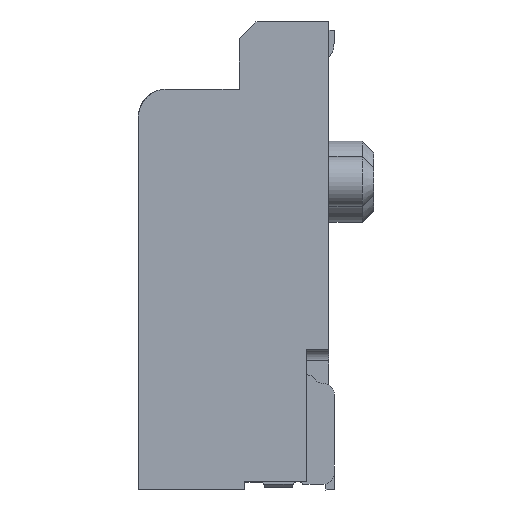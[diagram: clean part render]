
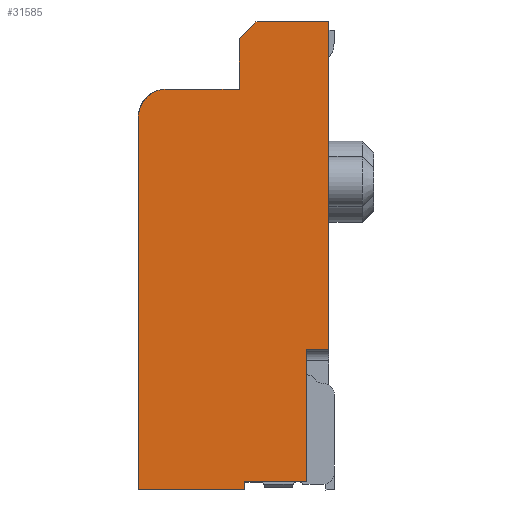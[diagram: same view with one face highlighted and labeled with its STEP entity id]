
A CAD part, left-side view. The second image highlights one B-rep face of the part: STEP entity #31585.
In plain terms, the highlighted planar face has unit normal (-1, 0, 0).
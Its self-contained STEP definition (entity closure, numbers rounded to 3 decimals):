
#1019 = CARTESIAN_POINT ( 'NONE',  ( -37.637, -7.383, 3.876 ) ) ;
#2983 = PLANE ( 'NONE',  #64553 ) ;
#3279 = CARTESIAN_POINT ( 'NONE',  ( -37.637, -7.683, 4.176 ) ) ;
#4075 = VERTEX_POINT ( 'NONE', #12726 ) ;
#4671 = VERTEX_POINT ( 'NONE', #31272 ) ;
#4919 = VECTOR ( 'NONE', #35496, 1000. ) ;
#6683 = EDGE_CURVE ( 'NONE', #62897, #73253, #21357, .T. ) ;
#7192 = CARTESIAN_POINT ( 'NONE',  ( -37.637, -5.583, 2.476 ) ) ;
#7528 = EDGE_CURVE ( 'NONE', #18116, #24032, #82678, .T. ) ;
#11806 = CARTESIAN_POINT ( 'NONE',  ( -37.637, -7.383, 3.876 ) ) ;
#12726 = CARTESIAN_POINT ( 'NONE',  ( -37.637, -8.583, -1.674 ) ) ;
#13020 = VECTOR ( 'NONE', #24355, 1000. ) ;
#13164 = CARTESIAN_POINT ( 'NONE',  ( -37.637, -8.983, -1.674 ) ) ;
#14035 = DIRECTION ( 'NONE',  ( 0., 0., -1. ) ) ;
#16226 = FACE_OUTER_BOUND ( 'NONE', #77012, .T. ) ;
#16313 = CARTESIAN_POINT ( 'NONE',  ( -37.637, -4.783, -1.674 ) ) ;
#17011 = EDGE_CURVE ( 'NONE', #32920, #24032, #86379, .T. ) ;
#18116 = VERTEX_POINT ( 'NONE', #54399 ) ;
#19761 = CARTESIAN_POINT ( 'NONE',  ( -37.637, -5.583, -4.174 ) ) ;
#20995 = VECTOR ( 'NONE', #26807, 1000. ) ;
#21357 = LINE ( 'NONE', #28641, #4919 ) ;
#21363 = CARTESIAN_POINT ( 'NONE',  ( -37.637, -7.483, -4.024 ) ) ;
#22059 = EDGE_CURVE ( 'NONE', #46429, #4075, #45837, .T. ) ;
#22461 = VECTOR ( 'NONE', #86073, 1000. ) ;
#23965 = DIRECTION ( 'NONE',  ( -1., 0., 0. ) ) ;
#24032 = VERTEX_POINT ( 'NONE', #47310 ) ;
#24355 = DIRECTION ( 'NONE',  ( 0., 0., -1. ) ) ;
#26028 = LINE ( 'NONE', #74393, #26268 ) ;
#26268 = VECTOR ( 'NONE', #89394, 1000. ) ;
#26807 = DIRECTION ( 'NONE',  ( 0., -1., 0. ) ) ;
#26899 = AXIS2_PLACEMENT_3D ( 'NONE', #76791, #34843, #62678 ) ;
#27093 = EDGE_CURVE ( 'NONE', #80863, #4671, #66240, .T. ) ;
#28204 = ORIENTED_EDGE ( 'NONE', *, *, #7528, .T. ) ;
#28578 = VERTEX_POINT ( 'NONE', #52452 ) ;
#28605 = DIRECTION ( 'NONE',  ( 0., 0., -1. ) ) ;
#28641 = CARTESIAN_POINT ( 'NONE',  ( -37.637, -7.683, 4.176 ) ) ;
#28720 = VERTEX_POINT ( 'NONE', #74321 ) ;
#29918 = LINE ( 'NONE', #38546, #35069 ) ;
#30975 = VECTOR ( 'NONE', #14035, 1000. ) ;
#31272 = CARTESIAN_POINT ( 'NONE',  ( -37.637, -5.583, 2.476 ) ) ;
#31432 = CARTESIAN_POINT ( 'NONE',  ( -37.637, 15.501, 4.176 ) ) ;
#31585 = ADVANCED_FACE ( 'NONE', ( #16226 ), #2983, .T. ) ;
#31789 = VECTOR ( 'NONE', #28605, 1000. ) ;
#32920 = VERTEX_POINT ( 'NONE', #21363 ) ;
#33650 = VECTOR ( 'NONE', #82243, 1000. ) ;
#34843 = DIRECTION ( 'NONE',  ( -1., 0., 0. ) ) ;
#35069 = VECTOR ( 'NONE', #79594, 1000. ) ;
#35496 = DIRECTION ( 'NONE',  ( 0., 0.707, -0.707 ) ) ;
#35551 = VERTEX_POINT ( 'NONE', #13164 ) ;
#37206 = DIRECTION ( 'NONE',  ( 0., 0., 1. ) ) ;
#37593 = CARTESIAN_POINT ( 'NONE',  ( -37.637, -7.483, -1.674 ) ) ;
#38150 = ORIENTED_EDGE ( 'NONE', *, *, #75522, .T. ) ;
#38269 = LINE ( 'NONE', #31432, #20995 ) ;
#38546 = CARTESIAN_POINT ( 'NONE',  ( -37.637, -8.583, -4.024 ) ) ;
#38671 = CARTESIAN_POINT ( 'NONE',  ( -37.637, -8.583, -4.024 ) ) ;
#40207 = ORIENTED_EDGE ( 'NONE', *, *, #22059, .T. ) ;
#40530 = VECTOR ( 'NONE', #67257, 1000. ) ;
#41764 = EDGE_CURVE ( 'NONE', #62897, #28578, #38269, .T. ) ;
#43729 = ORIENTED_EDGE ( 'NONE', *, *, #41764, .F. ) ;
#45837 = LINE ( 'NONE', #47171, #40530 ) ;
#46429 = VERTEX_POINT ( 'NONE', #38671 ) ;
#46452 = LINE ( 'NONE', #11806, #30975 ) ;
#47171 = CARTESIAN_POINT ( 'NONE',  ( -37.637, -8.583, -4.024 ) ) ;
#47310 = CARTESIAN_POINT ( 'NONE',  ( -37.637, -7.483, -4.174 ) ) ;
#47509 = DIRECTION ( 'NONE',  ( 0., 0., 1. ) ) ;
#47733 = EDGE_CURVE ( 'NONE', #46429, #32920, #29918, .T. ) ;
#47956 = LINE ( 'NONE', #68488, #71892 ) ;
#50189 = ORIENTED_EDGE ( 'NONE', *, *, #70679, .T. ) ;
#50885 = CARTESIAN_POINT ( 'NONE',  ( -37.637, -6.083, 2.976 ) ) ;
#51664 = ORIENTED_EDGE ( 'NONE', *, *, #6683, .T. ) ;
#52452 = CARTESIAN_POINT ( 'NONE',  ( -37.637, -8.983, 4.176 ) ) ;
#54399 = CARTESIAN_POINT ( 'NONE',  ( -37.637, -5.583, -4.174 ) ) ;
#54535 = EDGE_CURVE ( 'NONE', #35551, #28578, #47956, .T. ) ;
#55536 = LINE ( 'NONE', #7192, #31789 ) ;
#57737 = CARTESIAN_POINT ( 'NONE',  ( -37.637, -4.783, 2.976 ) ) ;
#59069 = ORIENTED_EDGE ( 'NONE', *, *, #47733, .F. ) ;
#62678 = DIRECTION ( 'NONE',  ( 0., 0., 1. ) ) ;
#62897 = VERTEX_POINT ( 'NONE', #3279 ) ;
#64081 = ORIENTED_EDGE ( 'NONE', *, *, #17011, .F. ) ;
#64247 = EDGE_CURVE ( 'NONE', #28720, #80863, #26028, .T. ) ;
#64553 = AXIS2_PLACEMENT_3D ( 'NONE', #57737, #23965, #37206 ) ;
#66240 = CIRCLE ( 'NONE', #26899, 0.5 ) ;
#67257 = DIRECTION ( 'NONE',  ( 0., 0., 1. ) ) ;
#68488 = CARTESIAN_POINT ( 'NONE',  ( -37.637, -8.983, -1.674 ) ) ;
#68636 = ORIENTED_EDGE ( 'NONE', *, *, #88326, .T. ) ;
#70679 = EDGE_CURVE ( 'NONE', #4671, #18116, #55536, .T. ) ;
#71892 = VECTOR ( 'NONE', #47509, 1000. ) ;
#73253 = VERTEX_POINT ( 'NONE', #1019 ) ;
#73739 = LINE ( 'NONE', #16313, #22461 ) ;
#74196 = ORIENTED_EDGE ( 'NONE', *, *, #64247, .T. ) ;
#74321 = CARTESIAN_POINT ( 'NONE',  ( -37.637, -7.383, 2.976 ) ) ;
#74393 = CARTESIAN_POINT ( 'NONE',  ( -37.637, -7.383, 2.976 ) ) ;
#75522 = EDGE_CURVE ( 'NONE', #73253, #28720, #46452, .T. ) ;
#76791 = CARTESIAN_POINT ( 'NONE',  ( -37.637, -6.083, 2.476 ) ) ;
#77012 = EDGE_LOOP ( 'NONE', ( #64081, #59069, #40207, #68636, #78294, #43729, #51664, #38150, #74196, #82649, #50189, #28204 ) ) ;
#78294 = ORIENTED_EDGE ( 'NONE', *, *, #54535, .T. ) ;
#79594 = DIRECTION ( 'NONE',  ( 0., 1., 0. ) ) ;
#80863 = VERTEX_POINT ( 'NONE', #50885 ) ;
#82243 = DIRECTION ( 'NONE',  ( 0., -1., 0. ) ) ;
#82649 = ORIENTED_EDGE ( 'NONE', *, *, #27093, .T. ) ;
#82678 = LINE ( 'NONE', #19761, #33650 ) ;
#86073 = DIRECTION ( 'NONE',  ( 0., -1., 0. ) ) ;
#86379 = LINE ( 'NONE', #37593, #13020 ) ;
#88326 = EDGE_CURVE ( 'NONE', #4075, #35551, #73739, .T. ) ;
#89394 = DIRECTION ( 'NONE',  ( 0., 1., 0. ) ) ;
